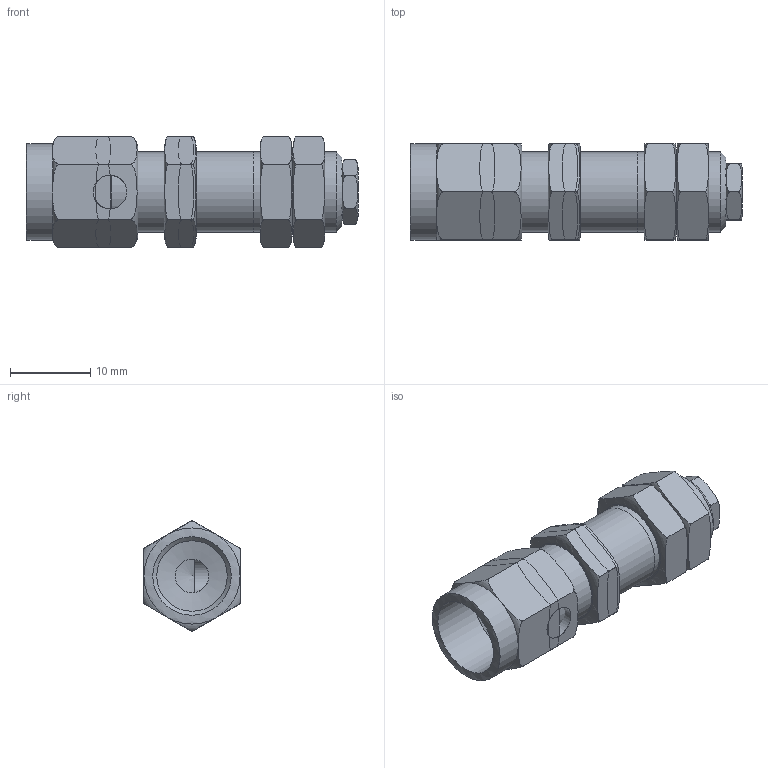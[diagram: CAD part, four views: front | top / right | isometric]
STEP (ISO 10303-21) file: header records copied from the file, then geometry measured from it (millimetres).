
FILE_DESCRIPTION( ( 'Unknown' ), '1' );
FILE_NAME( 'C:/Documents and Settings/Owner/官帕 拳搁/LEVEL SPRING HOMEPAGE/L18 Series/L1805F/L1805F.stp', 'Unknown', ( 'Unknown' ), ( 'Unknown' ), 'PSStep 10.0', 'Unknown', ' ' );
FILE_SCHEMA( ( 'AUTOMOTIVE_DESIGN { 1 0 10303 214 1 1 1 1 }' ) );
Length unit declared in the file: millimetre
Products named in the file (5): Assem1; SHA; HOU; END CAP; NUT
Bounding box: 41.5 x 12 x 13.86 mm (x, y, z)
Surface area: 7268.2 mm2 (no closed solid volume)
Topology: 0 solids, 165 shells, 165 faces, 639 edges, 570 vertices
Faces by surface type: plane 84, cylinder 31, revolution 30, cone 16, torus 4
Full cylindrical faces by diameter (mm): 2.85 x4, 3.5 x4, 4.2 x4, 5 x4, 7 x4, 8.8 x2, 9.8 x2, 10 x5, 12 x2
Entity records: 5820 total; most frequent: CARTESIAN_POINT 3063, DIRECTION 396, ORIENTED_EDGE 258, EDGE_CURVE 258, VERTEX_POINT 258, AXIS2_PLACEMENT_3D 165, FACE_BOUND 120, EDGE_LOOP 120
